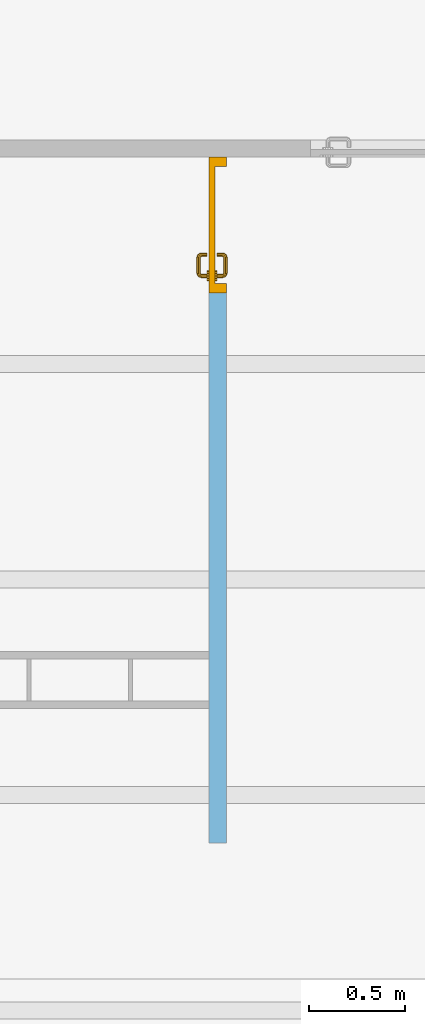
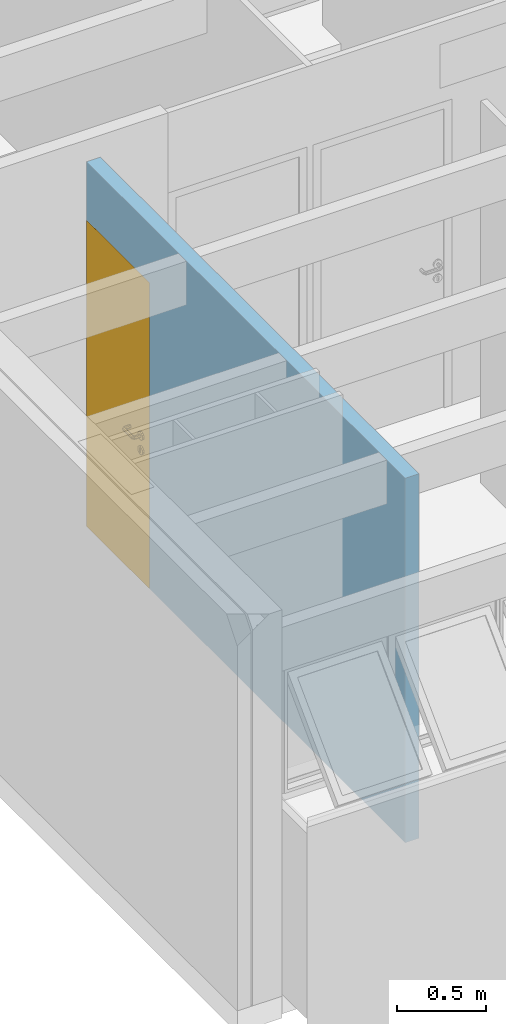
# One storey, part 11 of 22: 1 door, 1 opening, plus 1 element that does not belong to this part.
"""IFC2X3 building model written with IfcOpenShell, lengths in millimetres."""

from ifc_helpers import new_model, si_unit, direction, frame, frame_2d, origin_with_axes, origin_2d_with_axis, place, context, subcontext, project, spatial, polyline, rectangle, outline, extrude, open_shell, faceted_brep, surface_model, source, transform, mapped, material, layer, layer_set, layer_usage, type_object, type_shapes, element, fill, save


model = new_model("IFC2X3")

# Units and contexts
model_context = context("Model", 3, precision=1e-05, world=origin_with_axes(), true_north=direction((0.0, 1.0)))
body_context = subcontext(model_context, "Body", "Model", "MODEL_VIEW")
ifc_project = project(units=[si_unit("LENGTHUNIT", "METRE", prefix="MILLI"), si_unit("AREAUNIT", "SQUARE_METRE"), si_unit("VOLUMEUNIT", "CUBIC_METRE"), si_unit("PLANEANGLEUNIT", "RADIAN"), si_unit("TIMEUNIT", "SECOND"), si_unit("MASSUNIT", "GRAM")], contexts=[model_context])

# Site, building, storey
site_placement = place(None, origin_with_axes())
site = spatial("IfcSite", under=ifc_project, at=site_placement, Name="Site", CompositionType="ELEMENT")
building_placement = place(site_placement, origin_with_axes())
building = spatial("IfcBuilding", under=site, at=building_placement, Name="Construção", CompositionType="COMPLEX")
storey_placement = place(building_placement, frame((0.0, 0.0, 2650.0), z_axis=(0.0, 0.0, 1.0), x_axis=(1.0, 0.0, 0.0)))
storey = spatial("IfcBuildingStorey", under=building, at=storey_placement, Name="Segundo Pavimento", CompositionType="COMPLEX", Elevation=2650.0)

# Wall, opening, door
ifc_material = material(Name="GENÉRICO - VEDAÇÃO EXTERNA")
ifc_layer = layer(ifc_material, 90.0)
ifc_layer_set = layer_set([ifc_layer], Name="GENÉRICO - VEDAÇÃO EXTERNA 90")
ifc_layer_usage = layer_usage(ifc_layer_set, "AXIS2", "POSITIVE", 0.0)
wall_type = type_object("IfcWallType", Name="GENÉRICO - VEDAÇÃO EXTERNA 90", PredefinedType="STANDARD", material=ifc_layer_set)
wall_placement = place(storey_placement, frame((1730.0, 18814.7804333, 0.0), z_axis=(0.0, 0.0, 1.0), x_axis=(0.0, 1.0, 0.0)))
wall = element("IfcWallStandardCase", 1, at=wall_placement, inside=storey, type_object=wall_type, material=ifc_layer_usage, Name="APTO7-PAREDE-012", context=body_context, shape_type="SweptSolid", body=[
    extrude(rectangle(XDim=3580.0, YDim=90.0, at=origin_2d_with_axis()), frame((1790.0, 45.0, 0.0), z_axis=(0.0, 0.0, 1.0), x_axis=(1.0, 0.0, 0.0)), (0.0, 0.0, 1.0), 2500.0),
])
opening_placement = place(wall_placement, frame((3580.0, 90.0, 0.0), z_axis=(0.0, 0.0, 1.0), x_axis=(-1.0, 0.0, 0.0)))
opening = element("IfcOpeningElement", 2, at=opening_placement, cuts=wall, ObjectType="Opening", context=body_context, shape_type="SweptSolid", body=[
    extrude(outline(polyline([(-355.0, -1050.0), (-355.0, 1050.0), (355.0, 1050.0), (355.0, -1050.0), (-355.0, -1050.0)])), frame((355.0, 0.0, 1050.0), z_axis=(0.0, 1.0, 0.0), x_axis=(1.0, 0.0, 0.0)), (0.0, 0.0, 1.0), 270.0),
])
door_style = type_object("IfcDoorStyle", Name="Porta 25", ConstructionType="NOTDEFINED", OperationType="SINGLE_SWING_RIGHT", ParameterTakesPrecedence=False, Sizeable=False)
shared_shape_1 = source(origin_with_axes(), body_context, "Body", "SolidModel", [
    extrude(outline(polyline([(-10.0, -10.0), (-20.0, -10.0), (-20.0, 50.0), (30.0, 50.0), (30.0, -40.0), (-10.0, -40.0), (-10.0, -10.0)])), frame((680.0, 0.0, -40.0), z_axis=(0.0, 1.0, 0.0), x_axis=(1.0, 0.0, 0.0)), (0.0, 0.0, 1.0), 2050.0),
])
shared_shape_2 = source(origin_with_axes(), body_context, "Body", "SolidModel", [
    extrude(outline(polyline([(10.0, -10.0), (10.0, -40.0), (-30.0, -40.0), (-30.0, 50.0), (20.0, 50.0), (20.0, -10.0), (10.0, -10.0)])), frame((30.0, 0.0, -40.0), z_axis=(0.0, 1.0, 0.0), x_axis=(1.0, 0.0, 0.0)), (0.0, 0.0, 1.0), 2050.0),
])
shared_shape_3 = source(origin_with_axes(), body_context, "Body", "SolidModel", [
    faceted_brep([(39.99999999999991, 2050.0, -29.99999999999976), (670.0, 2050.0, -30.0), (670.0, 2060.0, -30.0), (39.99999999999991, 2060.0, -29.99999999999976), (710.0, 2050.0, -90.0), (0.0, 2050.0, -90.0), (0.0, 2100.0, -90.0), (710.0, 2100.0, -90.0), (670.0, 2060.0, 0.0), (39.99999999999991, 2060.0, 0.0), (39.99999999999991, 2050.0, 0.0), (0.0, 2100.0, 0.0), (0.0, 2050.0, 0.0), (710.0, 2100.0, 0.0), (710.0, 2050.0, 0.0), (670.0, 2050.0, 0.0)], [[[0, 1, 2, 3]], [[4, 5, 6, 7]], [[8, 9, 3, 2]], [[9, 10, 0, 3]], [[11, 6, 5, 12]], [[13, 7, 6, 11]], [[14, 4, 7, 13]], [[1, 0, 10, 12, 5, 4, 14, 15]], [[15, 8, 2, 1]], [[8, 15, 14, 13, 11, 12, 10, 9]]]),
])
shared_shape_4 = source(origin_with_axes(), body_context, "Body", "SolidModel", [
    extrude(outline(polyline([(0.0, 27.00000000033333), (13.49999999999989, 23.38268590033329), (23.38268590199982, 13.50000000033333), (26.99999999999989, 3.333298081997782e-10), (23.38268590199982, -13.49999999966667), (13.49999999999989, -23.38268590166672), (0.0, -26.99999999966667), (-13.50000000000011, -23.38268590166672), (-23.38268590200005, -13.49999999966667), (-27.0, 3.333298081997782e-10), (-23.38268590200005, 13.50000000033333), (-13.50000000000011, 23.38268590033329), (0.0, 27.00000000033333)])), frame((620.0, 999.9999999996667, -40.0), z_axis=(0.0, 0.0, 1.0), x_axis=(1.0, 0.0, 0.0)), (0.0, 0.0, 1.0), 10.0),
])
shared_shape_5 = source(origin_with_axes(), body_context, "Body", "SolidModel", [
    faceted_brep([(642.516660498, 913.0, -39.0), (646.0, 900.0, -39.0), (646.0, 900.0, -30.0), (642.516660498, 913.0, -30.0), (642.516660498, 887.0, -39.0), (642.516660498, 887.0, -30.0), (633.0, 922.516660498, -39.0), (633.0, 922.516660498, -30.0), (647.0, 900.0, -40.0), (647.0, 900.0, -30.0), (643.382685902, 886.5, -30.0), (643.382685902, 886.5, -40.0), (597.483339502, 913.0, -30.0), (607.0, 922.516660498, -30.0), (620.0, 926.0, -30.0), (633.0, 877.483339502, -30.0), (620.0, 874.0, -30.0), (607.0, 877.483339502, -30.0), (597.483339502, 887.0, -30.0), (594.0, 900.0, -30.0), (606.5, 923.382685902, -30.0), (596.617314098, 913.5, -30.0), (593.0, 900.0, -30.0), (596.617314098, 886.5, -30.0), (606.5, 876.617314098, -30.0), (620.0, 873.0, -30.0), (633.5, 876.617314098, -30.0), (643.382685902, 913.5, -30.0), (633.5, 923.382685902, -30.0), (620.0, 927.0, -30.0), (643.382685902, 913.5, -40.0), (633.5, 923.382685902, -40.0), (620.0, 926.0, -39.0), (633.0, 877.483339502, -39.0), (633.5, 876.617314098, -40.0), (607.0, 922.516660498, -39.0), (606.5, 876.617314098, -40.0), (596.617314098, 886.5, -40.0), (620.0, 873.0, -40.0), (620.0, 927.0, -40.0), (594.0, 900.0, -39.0), (597.483339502, 913.0, -39.0), (620.0, 882.5, -40.0), (620.0, 882.5, -39.0), (623.535533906, 883.964466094, -39.0), (623.535533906, 883.964466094, -40.0), (625.0, 887.5, -39.0), (625.0, 887.5, -40.0), (593.0, 900.0, -40.0), (620.0, 874.0, -39.0), (607.0, 877.483339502, -39.0), (597.483339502, 887.0, -39.0), (627.467830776, 909.692280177, -40.0), (625.0, 904.4, -40.0), (625.0, 904.4, -39.0), (627.467830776, 909.692280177, -39.0), (625.3751823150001, 915.143815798, -40.0), (626.720245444, 911.639806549, -40.0), (626.720245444, 911.639806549, -39.0), (625.3751823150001, 915.143815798, -39.0), (616.464466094, 883.964466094, -40.0), (616.464466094, 883.964466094, -39.0), (606.5, 923.382685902, -40.0), (596.617314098, 913.5, -40.0), (614.6248176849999, 915.143815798, -39.0), (620.0, 917.425445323, -39.0), (615.0, 887.5, -39.0), (615.0, 904.4, -39.0), (612.532169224, 909.692280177, -39.0), (613.279754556, 911.639806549, -39.0), (620.0, 917.425445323, -40.0), (614.6248176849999, 915.143815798, -40.0), (615.0, 887.5, -40.0), (612.532169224, 909.692280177, -40.0), (613.279754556, 911.639806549, -40.0), (615.0, 904.4, -40.0)], [[[0, 1, 2, 3]], [[1, 4, 5, 2]], [[6, 0, 3, 7]], [[8, 9, 10, 11]], [[12, 13, 14, 7, 3, 2, 5, 15, 16, 17, 18, 19], [20, 21, 22, 23, 24, 25, 26, 10, 9, 27, 28, 29]], [[30, 27, 9, 8]], [[31, 28, 27, 30]], [[32, 6, 7, 14]], [[4, 33, 15, 5]], [[11, 10, 26, 34]], [[35, 32, 14, 13]], [[36, 24, 23, 37]], [[38, 25, 24, 36]], [[34, 26, 25, 38]], [[39, 29, 28, 31]], [[40, 41, 12, 19]], [[42, 43, 44, 45]], [[45, 44, 46, 47]], [[37, 23, 22, 48]], [[33, 49, 16, 15]], [[49, 50, 17, 16]], [[51, 40, 19, 18]], [[50, 51, 18, 17]], [[52, 53, 54, 55]], [[54, 53, 47, 46]], [[41, 35, 13, 12]], [[56, 57, 52, 55, 58, 59]], [[60, 61, 43, 42]], [[62, 20, 29, 39]], [[63, 21, 20, 62]], [[40, 51, 50, 49, 33, 4, 1, 0, 6, 32, 35, 41], [64, 65, 59, 58, 55, 54, 46, 44, 43, 61, 66, 67, 68, 69]], [[70, 56, 59, 65]], [[71, 70, 65, 64]], [[48, 22, 21, 63]], [[72, 66, 61, 60]], [[73, 74, 71, 64, 69, 68]], [[75, 67, 66, 72]], [[75, 73, 68, 67]], [[36, 37, 48, 63, 62, 39, 31, 30, 8, 11, 34, 38], [73, 75, 72, 60, 42, 45, 47, 53, 52, 57, 56, 70, 71, 74]]], outer=[[True], [True], [True], [True], [False, True], [True], [True], [True], [True], [True], [True], [True], [True], [True], [True], [True], [True], [True], [True], [True], [True], [True], [True], [True], [True], [True], [True], [True], [True], [True], [True, False], [True], [True], [True], [True], [True], [True], [True], [True, False]]),
])
shared_shape_6 = source(origin_with_axes(), body_context, "Body", "SurfaceModel", [
    surface_model("IfcShellBasedSurfaceModel", [(517.071067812, 1007.07106781, -69.303560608), (510.0, 1010.0, -70.0), (510.0, 1010.0, -40.0), (517.071067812, 1007.07106781, -40.0), (520.0, 1000.0, -69.0150859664), (520.0, 1000.0, -40.0), (517.071067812, 992.928932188, -69.303560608), (517.071067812, 992.928932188, -40.0), (502.928932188, 1007.07106781, -70.696439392), (502.928932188, 1007.07106781, -40.0), (500.0, 1000.0, -40.0), (502.928932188, 992.928932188, -40.0), (510.0, 990.0, -40.0), (500.0, 1000.0, -70.9849140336), (510.0, 990.0, -70.0), (517.802607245, 992.928932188, -72.9812576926), (520.5616010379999, 1000.0, -71.83844504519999), (511.141807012, 1010.0, -75.74025148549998), (504.481006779, 1007.07106781, -78.49924527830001), (517.802607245, 1007.07106781, -72.9812576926), (514.393398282, 1010.0, -80.6066017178), (509.295442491, 1007.07106781, -85.70455750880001), (519.491354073, 1007.07106781, -75.5086459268), (522.018742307, 992.928932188, -77.19739275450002), (523.161554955, 1000.0, -74.43839896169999), (521.602996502, 1000.0, -73.39700349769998), (519.491354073, 992.928932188, -75.5086459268), (522.018742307, 1007.07106781, -77.19739275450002), (519.259748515, 1010.0, -83.8581929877), (501.722012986, 1000.0, -79.6420579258), (502.928932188, 992.928932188, -70.696439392), (525.984914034, 1000.0, -75.0), (525.696439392, 1007.07106781, -77.92893218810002), (511.141807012, 990.0, -75.74025148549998), (504.481006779, 992.928932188, -78.49924527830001), (514.393398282, 990.0, -80.6066017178), (509.295442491, 992.928932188, -85.70455750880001), (507.183800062, 1000.0, -87.8161999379), (516.500754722, 992.928932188, -90.51899322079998), (519.259748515, 990.0, -83.8581929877), (525.696439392, 992.928932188, -77.92893218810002), (515.357942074, 1000.0, -93.2779870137), (516.500754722, 1007.07106781, -90.51899322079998), (525.0, 990.0, -85.0), (604.303560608, 992.928932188, -77.92893218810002), (604.015085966, 1000.0, -75.0), (607.981257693, 992.928932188, -77.19739275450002), (606.838445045, 1000.0, -74.43839896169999), (604.303560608, 1007.07106781, -77.92893218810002), (607.981257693, 1007.07106781, -77.19739275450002), (608.397003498, 1000.0, -73.39700349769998), (610.508645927, 1007.07106781, -75.5086459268), (525.0, 1010.0, -85.0), (524.303560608, 1007.07106781, -92.07106781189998), (524.015085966, 1000.0, -95.0), (524.303560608, 992.928932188, -92.07106781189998), (605.0, 990.0, -85.0), (605.0, 1010.0, -85.0), (610.740251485, 1010.0, -83.8581929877), (605.696439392, 1007.07106781, -92.07106781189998), (615.606601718, 1010.0, -80.6066017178), (613.499245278, 1007.07106781, -90.51899322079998), (605.984914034, 1000.0, -95.0), (610.508645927, 992.928932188, -75.5086459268), (609.4383989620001, 1000.0, -71.83844504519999), (612.197392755, 1007.07106781, -72.9812576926), (610.0, 1000.0, -69.0150859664), (612.928932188, 1007.07106781, -69.303560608), (620.0, 1010.0, -70.0), (618.8581929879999, 1010.0, -75.74025148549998), (615.606601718, 990.0, -80.6066017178), (610.740251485, 990.0, -83.8581929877), (612.197392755, 992.928932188, -72.9812576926), (605.696439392, 992.928932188, -92.07106781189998), (620.704557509, 1007.07106781, -85.70455750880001), (614.642057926, 1000.0, -93.2779870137), (613.499245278, 992.928932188, -90.51899322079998), (625.5189932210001, 1007.07106781, -78.49924527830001), (610.0, 1000.0, -40.0), (612.928932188, 1007.07106781, -40.0), (622.816199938, 1000.0, -87.8161999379), (620.704557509, 992.928932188, -85.70455750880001), (625.5189932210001, 992.928932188, -78.49924527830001), (618.8581929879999, 990.0, -75.74025148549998), (628.277987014, 1000.0, -79.6420579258), (620.0, 1010.0, -40.0), (627.071067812, 1007.07106781, -70.696439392), (627.071067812, 1007.07106781, -40.0), (630.0, 1000.0, -70.9849140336), (612.928932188, 992.928932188, -69.303560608), (620.0, 990.0, -70.0), (612.928932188, 992.928932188, -40.0), (627.071067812, 992.928932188, -70.696439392), (620.0, 990.0, -40.0), (630.0, 1000.0, -40.0), (627.071067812, 992.928932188, -40.0)], [open_shell([[[0, 1, 2, 3]], [[4, 0, 3, 5]], [[6, 4, 5, 7]], [[1, 8, 9, 2]], [[10, 11, 12, 7, 5, 3, 2, 9]], [[8, 13, 10, 9]], [[14, 6, 7, 12]], [[15, 16, 4, 6]], [[17, 18, 8, 1]], [[19, 17, 1, 0]], [[20, 21, 18, 17]], [[16, 19, 0, 4]], [[22, 20, 17, 19]], [[23, 24, 25, 26]], [[25, 22, 19, 16]], [[27, 28, 20, 22]], [[18, 29, 13, 8]], [[13, 30, 11, 10]], [[26, 25, 16, 15]], [[24, 27, 22, 25]], [[31, 32, 27, 24]], [[30, 14, 12, 11]], [[33, 15, 6, 14]], [[34, 33, 14, 30]], [[35, 26, 15, 33]], [[29, 34, 30, 13]], [[36, 35, 33, 34]], [[37, 36, 34, 29]], [[38, 39, 35, 36]], [[39, 23, 26, 35]], [[40, 31, 24, 23]], [[21, 37, 29, 18]], [[41, 38, 36, 37]], [[42, 41, 37, 21]], [[43, 40, 23, 39]], [[44, 45, 31, 40]], [[46, 47, 45, 44]], [[45, 48, 32, 31]], [[47, 49, 48, 45]], [[50, 51, 49, 47]], [[32, 52, 28, 27]], [[28, 42, 21, 20]], [[53, 54, 41, 42]], [[55, 43, 39, 38]], [[56, 44, 40, 43]], [[48, 57, 52, 32]], [[52, 53, 42, 28]], [[49, 58, 57, 48]], [[57, 59, 53, 52]], [[51, 60, 58, 49]], [[58, 61, 59, 57]], [[59, 62, 54, 53]], [[54, 55, 38, 41]], [[63, 50, 47, 46]], [[64, 65, 51, 50]], [[66, 67, 65, 64]], [[67, 68, 69, 65]], [[70, 63, 46, 71]], [[72, 64, 50, 63]], [[73, 56, 43, 55]], [[71, 46, 44, 56]], [[65, 69, 60, 51]], [[60, 74, 61, 58]], [[61, 75, 62, 59]], [[62, 73, 55, 54]], [[76, 71, 56, 73]], [[69, 77, 74, 60]], [[78, 79, 67, 66]], [[74, 80, 75, 61]], [[75, 76, 73, 62]], [[81, 70, 71, 76]], [[80, 81, 76, 75]], [[82, 83, 70, 81]], [[84, 82, 81, 80]], [[79, 85, 68, 67]], [[68, 86, 77, 69]], [[77, 84, 80, 74]], [[85, 87, 86, 68]], [[86, 88, 84, 77]], [[83, 72, 63, 70]], [[89, 66, 64, 72]], [[90, 89, 72, 83]], [[91, 78, 66, 89]], [[92, 90, 83, 82]], [[93, 91, 89, 90]], [[87, 94, 88, 86]], [[88, 92, 82, 84]], [[95, 93, 90, 92]], [[94, 95, 92, 88]]])]),
])
shared_shape_7 = source(origin_with_axes(), body_context, "Body", "SolidModel", [
    extrude(outline(polyline([(0.0, 27.00000000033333), (13.49999999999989, 23.38268590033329), (23.38268590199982, 13.50000000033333), (26.99999999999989, 3.333298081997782e-10), (23.38268590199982, -13.49999999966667), (13.49999999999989, -23.38268590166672), (0.0, -26.99999999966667), (-13.50000000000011, -23.38268590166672), (-23.38268590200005, -13.49999999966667), (-27.0, 3.333298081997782e-10), (-23.38268590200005, 13.50000000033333), (-13.50000000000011, 23.38268590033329), (0.0, 27.00000000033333)])), frame((620.0, 999.9999999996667, 0.0), z_axis=(0.0, 0.0, 1.0), x_axis=(1.0, 0.0, 0.0)), (0.0, 0.0, 1.0), 10.0),
])
shared_shape_8 = source(origin_with_axes(), body_context, "Body", "SolidModel", [
    faceted_brep([(643.382685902, 913.5, 0.0), (643.382685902, 913.5, 10.0), (647.0, 900.0, 10.0), (647.0, 900.0, 0.0), (643.382685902, 886.5, 10.0), (643.382685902, 886.5, 0.0), (633.5, 876.617314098, 10.0), (633.5, 876.617314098, 0.0), (646.0, 900.0, 9.0), (646.0, 900.0, 0.0), (642.516660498, 887.0, 0.0), (642.516660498, 887.0, 9.0), (633.0, 877.483339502, 0.0), (633.0, 877.483339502, 9.0), (633.5, 923.382685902, 0.0), (633.5, 923.382685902, 10.0), (642.516660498, 913.0, 9.0), (642.516660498, 913.0, 0.0), (620.0, 927.0, 0.0), (620.0, 927.0, 10.0), (633.0, 922.516660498, 9.0), (633.0, 922.516660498, 0.0), (620.0, 874.0, 0.0), (620.0, 874.0, 9.0), (606.5, 876.617314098, 0.0), (596.617314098, 886.5, 0.0), (593.0, 900.0, 0.0), (596.617314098, 913.5, 0.0), (606.5, 923.382685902, 0.0), (620.0, 873.0, 0.0), (607.0, 922.516660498, 0.0), (597.483339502, 913.0, 0.0), (594.0, 900.0, 0.0), (597.483339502, 887.0, 0.0), (607.0, 877.483339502, 0.0), (620.0, 926.0, 0.0), (620.0, 873.0, 10.0), (606.5, 923.382685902, 10.0), (627.467830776, 909.692280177, 9.0), (625.0, 904.4, 9.0), (625.0, 904.4, 10.0), (627.467830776, 909.692280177, 10.0), (625.3751823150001, 915.143815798, 9.0), (626.720245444, 911.639806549, 9.0), (626.720245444, 911.639806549, 10.0), (625.3751823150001, 915.143815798, 10.0), (597.483339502, 887.0, 9.0), (594.0, 900.0, 9.0), (596.617314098, 886.5, 10.0), (593.0, 900.0, 10.0), (606.5, 876.617314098, 10.0), (625.0, 887.5, 9.0), (625.0, 887.5, 10.0), (623.535533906, 883.964466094, 9.0), (623.535533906, 883.964466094, 10.0), (596.617314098, 913.5, 10.0), (620.0, 926.0, 9.0), (607.0, 877.483339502, 9.0), (620.0, 882.5, 9.0), (620.0, 882.5, 10.0), (616.464466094, 883.964466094, 9.0), (616.464466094, 883.964466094, 10.0), (620.0, 917.425445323, 9.0), (620.0, 917.425445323, 10.0), (607.0, 922.516660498, 9.0), (597.483339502, 913.0, 9.0), (614.6248176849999, 915.143815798, 10.0), (615.0, 887.5, 10.0), (615.0, 904.4, 10.0), (612.532169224, 909.692280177, 10.0), (613.279754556, 911.639806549, 10.0), (614.6248176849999, 915.143815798, 9.0), (615.0, 887.5, 9.0), (612.532169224, 909.692280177, 9.0), (613.279754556, 911.639806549, 9.0), (615.0, 904.4, 9.0)], [[[0, 1, 2, 3]], [[3, 2, 4, 5]], [[5, 4, 6, 7]], [[8, 9, 10, 11]], [[11, 10, 12, 13]], [[14, 15, 1, 0]], [[16, 17, 9, 8]], [[18, 19, 15, 14]], [[20, 21, 17, 16]], [[13, 12, 22, 23]], [[24, 25, 26, 27, 28, 18, 14, 0, 3, 5, 7, 29], [30, 31, 32, 33, 34, 22, 12, 10, 9, 17, 21, 35]], [[7, 6, 36, 29]], [[28, 37, 19, 18]], [[38, 39, 40, 41]], [[42, 43, 38, 41, 44, 45]], [[46, 33, 32, 47]], [[25, 48, 49, 26]], [[29, 36, 50, 24]], [[24, 50, 48, 25]], [[40, 39, 51, 52]], [[53, 54, 52, 51]], [[26, 49, 55, 27]], [[27, 55, 37, 28]], [[56, 35, 21, 20]], [[57, 34, 33, 46]], [[58, 59, 54, 53]], [[23, 22, 34, 57]], [[60, 61, 59, 58]], [[62, 42, 45, 63]], [[64, 30, 35, 56]], [[47, 32, 31, 65]], [[19, 37, 55, 49, 48, 50, 36, 6, 4, 2, 1, 15], [66, 63, 45, 44, 41, 40, 52, 54, 59, 61, 67, 68, 69, 70]], [[65, 31, 30, 64]], [[71, 62, 63, 66]], [[72, 67, 61, 60]], [[73, 74, 71, 66, 70, 69]], [[75, 68, 67, 72]], [[75, 73, 69, 68]], [[65, 64, 56, 20, 16, 8, 11, 13, 23, 57, 46, 47], [73, 75, 72, 60, 58, 53, 51, 39, 38, 43, 42, 62, 71, 74]]]),
])
shared_shape_9 = source(origin_with_axes(), body_context, "Body", "SurfaceModel", [
    surface_model("IfcShellBasedSurfaceModel", [(517.802607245, 1007.07106781, 42.9812576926), (517.071067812, 1007.07106781, 39.303560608), (510.0, 1010.0, 40.0), (511.141807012, 1010.0, 45.7402514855), (517.802607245, 992.928932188, 42.9812576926), (517.071067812, 992.928932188, 39.303560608), (520.0, 1000.0, 39.0150859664), (520.5616010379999, 1000.0, 41.8384450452), (521.602996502, 1000.0, 43.3970034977), (519.491354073, 1007.07106781, 45.5086459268), (510.0, 990.0, 40.0), (510.0, 990.0, 10.0), (517.071067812, 992.928932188, 10.0), (520.0, 1000.0, 10.0), (517.071067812, 1007.07106781, 10.0), (510.0, 1010.0, 10.0), (502.928932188, 1007.07106781, 10.0), (502.928932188, 1007.07106781, 40.696439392), (519.491354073, 992.928932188, 45.5086459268), (511.141807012, 990.0, 45.7402514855), (525.696439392, 1007.07106781, 47.9289321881), (522.018742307, 1007.07106781, 47.1973927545), (519.259748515, 1010.0, 53.8581929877), (525.0, 1010.0, 55.0), (523.161554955, 1000.0, 44.4383989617), (519.259748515, 990.0, 53.8581929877), (514.393398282, 990.0, 50.6066017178), (522.018742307, 992.928932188, 47.1973927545), (516.500754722, 992.928932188, 60.5189932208), (509.295442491, 992.928932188, 55.7045575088), (525.984914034, 1000.0, 45.0), (525.0, 990.0, 55.0), (525.696439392, 992.928932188, 47.9289321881), (604.015085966, 1000.0, 45.0), (604.303560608, 1007.07106781, 47.9289321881), (502.928932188, 992.928932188, 40.696439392), (502.928932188, 992.928932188, 10.0), (500.0, 1000.0, 10.0), (504.481006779, 992.928932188, 48.4992452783), (500.0, 1000.0, 40.9849140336), (501.722012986, 1000.0, 49.6420579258), (507.183800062, 1000.0, 57.8161999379), (504.481006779, 1007.07106781, 48.4992452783), (514.393398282, 1010.0, 50.6066017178), (509.295442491, 1007.07106781, 55.7045575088), (516.500754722, 1007.07106781, 60.5189932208), (604.303560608, 992.928932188, 47.9289321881), (515.357942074, 1000.0, 63.2779870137), (524.303560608, 992.928932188, 62.0710678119), (607.981257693, 992.928932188, 47.1973927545), (606.838445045, 1000.0, 44.4383989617), (605.0, 990.0, 55.0), (610.740251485, 990.0, 53.8581929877), (607.981257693, 1007.07106781, 47.1973927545), (605.0, 1010.0, 55.0), (610.740251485, 1010.0, 53.8581929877), (605.696439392, 992.928932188, 62.0710678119), (524.015085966, 1000.0, 65.0), (608.397003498, 1000.0, 43.3970034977), (610.508645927, 1007.07106781, 45.5086459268), (610.508645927, 992.928932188, 45.5086459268), (524.303560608, 1007.07106781, 62.0710678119), (605.696439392, 1007.07106781, 62.0710678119), (605.984914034, 1000.0, 65.0), (613.499245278, 1007.07106781, 60.5189932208), (615.606601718, 1010.0, 50.6066017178), (620.704557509, 1007.07106781, 55.7045575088), (613.499245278, 992.928932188, 60.5189932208), (614.642057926, 1000.0, 63.2779870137), (612.928932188, 992.928932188, 10.0), (612.928932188, 992.928932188, 39.303560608), (610.0, 1000.0, 39.0150859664), (610.0, 1000.0, 10.0), (612.928932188, 1007.07106781, 39.303560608), (612.928932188, 1007.07106781, 10.0), (609.4383989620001, 1000.0, 41.8384450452), (612.197392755, 1007.07106781, 42.9812576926), (618.8581929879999, 1010.0, 45.7402514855), (625.5189932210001, 1007.07106781, 48.4992452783), (620.0, 1010.0, 40.0), (627.071067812, 1007.07106781, 40.696439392), (620.0, 1010.0, 10.0), (612.197392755, 992.928932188, 42.9812576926), (615.606601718, 990.0, 50.6066017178), (620.704557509, 992.928932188, 55.7045575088), (622.816199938, 1000.0, 57.8161999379), (628.277987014, 1000.0, 49.6420579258), (618.8581929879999, 990.0, 45.7402514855), (620.0, 990.0, 40.0), (625.5189932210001, 992.928932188, 48.4992452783), (620.0, 990.0, 10.0), (627.071067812, 1007.07106781, 10.0), (627.071067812, 992.928932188, 40.696439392), (630.0, 1000.0, 40.9849140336), (627.071067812, 992.928932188, 10.0), (630.0, 1000.0, 10.0)], [open_shell([[[0, 1, 2, 3]], [[4, 5, 6, 7]], [[7, 6, 1, 0]], [[8, 7, 0, 9]], [[10, 11, 12, 5]], [[5, 12, 13, 6]], [[6, 13, 14, 1]], [[1, 14, 15, 2]], [[2, 15, 16, 17]], [[18, 4, 7, 8]], [[19, 10, 5, 4]], [[20, 21, 22, 23]], [[24, 8, 9, 21]], [[25, 26, 18, 27]], [[28, 29, 26, 25]], [[26, 19, 4, 18]], [[30, 24, 21, 20]], [[27, 18, 8, 24]], [[31, 25, 27, 32]], [[33, 30, 20, 34]], [[32, 27, 24, 30]], [[35, 36, 11, 10]], [[37, 16, 15, 14, 13, 12, 11, 36]], [[38, 35, 10, 19]], [[39, 37, 36, 35]], [[29, 38, 19, 26]], [[40, 39, 35, 38]], [[17, 16, 37, 39]], [[41, 40, 38, 29]], [[42, 17, 39, 40]], [[3, 2, 17, 42]], [[9, 0, 3, 43]], [[43, 3, 42, 44]], [[21, 9, 43, 22]], [[44, 42, 40, 41]], [[22, 43, 44, 45]], [[46, 32, 30, 33]], [[47, 41, 29, 28]], [[48, 28, 25, 31]], [[49, 46, 33, 50]], [[51, 31, 32, 46]], [[52, 51, 46, 49]], [[53, 34, 54, 55]], [[56, 48, 31, 51]], [[57, 47, 28, 48]], [[45, 44, 41, 47]], [[50, 33, 34, 53]], [[58, 50, 53, 59]], [[60, 49, 50, 58]], [[23, 22, 45, 61]], [[34, 20, 23, 54]], [[61, 45, 47, 57]], [[54, 23, 61, 62]], [[62, 61, 57, 63]], [[55, 54, 62, 64]], [[65, 55, 64, 66]], [[67, 56, 51, 52]], [[63, 57, 48, 56]], [[64, 62, 63, 68]], [[69, 70, 71, 72]], [[59, 53, 55, 65]], [[72, 71, 73, 74]], [[75, 58, 59, 76]], [[76, 59, 65, 77]], [[71, 75, 76, 73]], [[77, 65, 66, 78]], [[73, 76, 77, 79]], [[79, 77, 78, 80]], [[74, 73, 79, 81]], [[82, 60, 58, 75]], [[83, 52, 49, 60]], [[84, 67, 52, 83]], [[68, 63, 56, 67]], [[66, 64, 68, 85]], [[85, 68, 67, 84]], [[78, 66, 85, 86]], [[70, 82, 75, 71]], [[87, 83, 60, 82]], [[88, 87, 82, 70]], [[89, 84, 83, 87]], [[90, 88, 70, 69]], [[81, 79, 80, 91]], [[92, 89, 87, 88]], [[86, 85, 84, 89]], [[80, 78, 86, 93]], [[94, 92, 88, 90]], [[93, 86, 89, 92]], [[91, 80, 93, 95]], [[95, 93, 92, 94]]])]),
])
shared_shape_10 = source(origin_with_axes(), body_context, "Body", "SolidModel", [
    extrude(rectangle(XDim=2060.0, YDim=630.0, at=frame_2d((0.0, 0.0), x_axis=(0.0, 1.0))), frame((355.0, 1030.0, -30.0), z_axis=(0.0, 0.0, 1.0), x_axis=(1.0, 0.0, 0.0)), (0.0, 0.0, 1.0), 30.0),
])
shared_shape_11 = source(origin_with_axes(), body_context, "Body", "MappedRepresentation", [
    mapped(shared_shape_1, transform((0.0, 0.0, 0.0))),
    mapped(shared_shape_2, transform((0.0, 0.0, 0.0))),
    mapped(shared_shape_3, transform((0.0, 0.0, 0.0))),
    mapped(shared_shape_4, transform((0.0, 0.0, 0.0))),
    mapped(shared_shape_5, transform((0.0, 0.0, 0.0))),
    mapped(shared_shape_6, transform((0.0, 0.0, 0.0))),
    mapped(shared_shape_7, transform((0.0, 0.0, 0.0))),
    mapped(shared_shape_8, transform((0.0, 0.0, 0.0))),
    mapped(shared_shape_9, transform((0.0, 0.0, 0.0))),
    mapped(shared_shape_10, transform((0.0, 0.0, 0.0))),
])
type_shapes(door_style, [shared_shape_11])
door_placement = place(opening_placement, origin_with_axes())
door = element("IfcDoor", 3, at=door_placement, inside=storey, type_object=door_style, Name="APTO7-PORTA-003", OverallHeight=2100.0, OverallWidth=710.0, context=body_context, shape_type="MappedRepresentation", body=[
    mapped(shared_shape_11, transform((0.0, 0.0, 0.0), x_axis=(1.0, 0.0, 0.0), y_axis=(0.0, 0.0, 1.0), z_axis=(0.0, -1.0, 0.0), scale=1.0)),
])
fill(opening, door)

save(model, "model.ifc")
